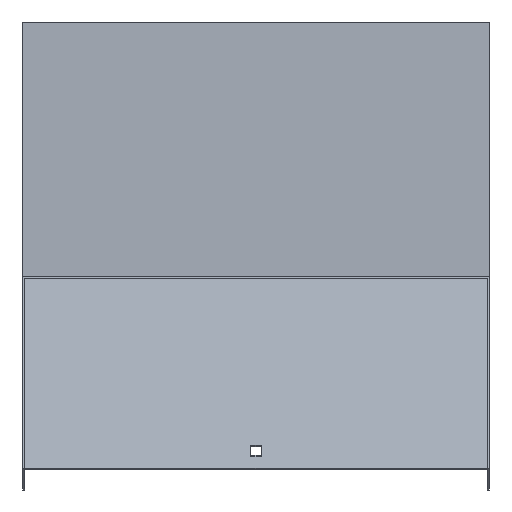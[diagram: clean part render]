
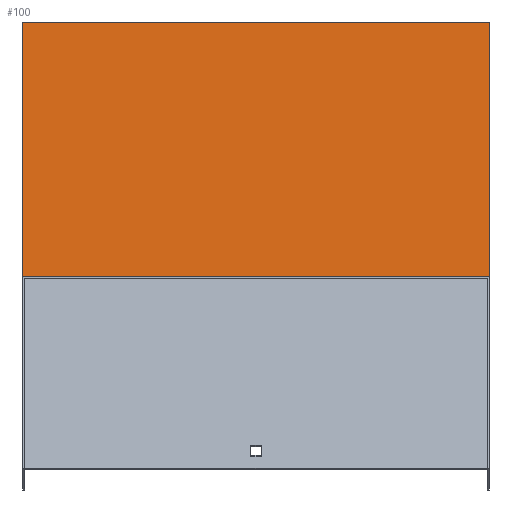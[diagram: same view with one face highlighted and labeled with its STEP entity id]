
A CAD part, top view. The second image highlights one B-rep face of the part: STEP entity #100.
In plain terms, the highlighted planar face has unit normal (0, 0.924, 0.383).
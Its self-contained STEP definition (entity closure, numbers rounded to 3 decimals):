
#15 = DIRECTION ( 'NONE',  ( 0., -0.383, 0.924 ) ) ;
#51 = VERTEX_POINT ( 'NONE', #265 ) ;
#64 = LINE ( 'NONE', #315, #436 ) ;
#68 = CARTESIAN_POINT ( 'NONE',  ( -151.5, 18.478, 179.654 ) ) ;
#80 = EDGE_CURVE ( 'NONE', #706, #716, #256, .T. ) ;
#100 = ADVANCED_FACE ( 'NONE', ( #516 ), #782, .F. ) ;
#108 = VERTEX_POINT ( 'NONE', #136 ) ;
#120 = ORIENTED_EDGE ( 'NONE', *, *, #310, .F. ) ;
#122 = DIRECTION ( 'NONE',  ( 0., -0.383, 0.924 ) ) ;
#136 = CARTESIAN_POINT ( 'NONE',  ( 151.5, -146.068, 576.902 ) ) ;
#231 = DIRECTION ( 'NONE',  ( -1., 0., 0. ) ) ;
#253 = DIRECTION ( 'NONE',  ( -1., 0., 0. ) ) ;
#256 = LINE ( 'NONE', #68, #781 ) ;
#265 = CARTESIAN_POINT ( 'NONE',  ( 151.5, 20., 175.978 ) ) ;
#299 = VECTOR ( 'NONE', #15, 1000. ) ;
#310 = EDGE_CURVE ( 'NONE', #108, #716, #64, .T. ) ;
#315 = CARTESIAN_POINT ( 'NONE',  ( 151.5, -146.068, 576.902 ) ) ;
#334 = VECTOR ( 'NONE', #231, 1000. ) ;
#436 = VECTOR ( 'NONE', #253, 1000. ) ;
#442 = CARTESIAN_POINT ( 'NONE',  ( 151.5, 20., 175.978 ) ) ;
#457 = CARTESIAN_POINT ( 'NONE',  ( -151.5, 20., 175.978 ) ) ;
#505 = LINE ( 'NONE', #442, #334 ) ;
#516 = FACE_OUTER_BOUND ( 'NONE', #543, .T. ) ;
#536 = EDGE_CURVE ( 'NONE', #51, #706, #505, .T. ) ;
#543 = EDGE_LOOP ( 'NONE', ( #800, #120, #547, #643 ) ) ;
#547 = ORIENTED_EDGE ( 'NONE', *, *, #756, .F. ) ;
#553 = CARTESIAN_POINT ( 'NONE',  ( 151.5, 18.478, 179.654 ) ) ;
#643 = ORIENTED_EDGE ( 'NONE', *, *, #536, .T. ) ;
#653 = CARTESIAN_POINT ( 'NONE',  ( -151.5, -146.068, 576.902 ) ) ;
#706 = VERTEX_POINT ( 'NONE', #457 ) ;
#716 = VERTEX_POINT ( 'NONE', #653 ) ;
#735 = CARTESIAN_POINT ( 'NONE',  ( 151.5, 18.478, 179.654 ) ) ;
#744 = LINE ( 'NONE', #553, #299 ) ;
#756 = EDGE_CURVE ( 'NONE', #51, #108, #744, .T. ) ;
#781 = VECTOR ( 'NONE', #122, 1000. ) ;
#782 = PLANE ( 'NONE',  #829 ) ;
#797 = DIRECTION ( 'NONE',  ( 0., -0.924, -0.383 ) ) ;
#800 = ORIENTED_EDGE ( 'NONE', *, *, #80, .T. ) ;
#829 = AXIS2_PLACEMENT_3D ( 'NONE', #735, #797, #850 ) ;
#850 = DIRECTION ( 'NONE',  ( 0., 0.383, -0.924 ) ) ;
